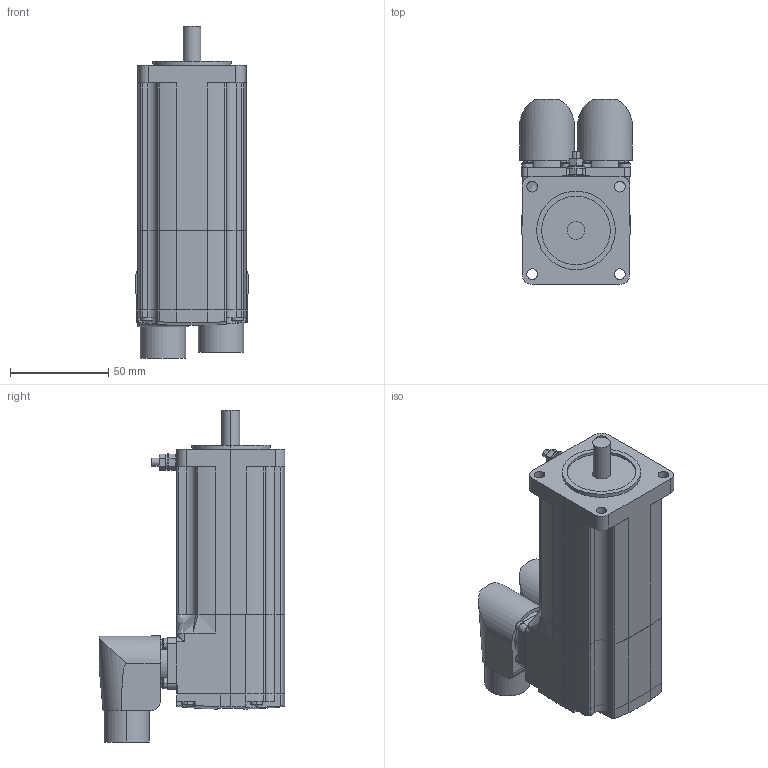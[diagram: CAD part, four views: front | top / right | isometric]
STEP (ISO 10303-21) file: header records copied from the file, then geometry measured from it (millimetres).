
FILE_DESCRIPTION (( 'STEP AP214' ), '1' );
FILE_NAME ('SH30551x0xA2100.STEP', '2013-11-29T07:09:08', ( 'Windows User' ), ( 'Schneider-Electric' ), 'SwSTEP 2.0', 'SolidWorks 2010', '' );
FILE_SCHEMA (( 'AUTOMOTIVE_DESIGN' ));
Length unit declared in the file: millimetre
Products named in the file (7): 1-100011007_K-TOPFGEHÄUSE SH3-055X_000_Topfgehäuse SH30551 ohne Passfeder; 1-100011008_K-LAGERSCHILD SH3-055X-A UND F_000_Lagerschild SH3-055x-A; 1-100011009_K-DECKEL SH3-055X_000_Deckel SH3-055x; 1-100011011_K-ERDUNGSBOLZEN M4_000; K-ENCODER-CONINVERS-ABGEW_ENCODER-CONINVERS-ABGEWINKELT_000_Single- MultiTurn; K-POWER-CONINVERS-ABGEWIN_POWER-CONINVERS-ABGEWINKELT_000_ohne Bremse; SH30551x0xA2100
Assembly tree (6 placements, depth 2):
  SH30551x0xA2100
    K-POWER-CONINVERS-ABGEWIN_POWER-CONINVERS-ABGEWINKELT_000_ohne Bremse
    1-100011008_K-LAGERSCHILD SH3-055X-A UND F_000_Lagerschild SH3-055x-A
    1-100011007_K-TOPFGEHÄUSE SH3-055X_000_Topfgehäuse SH30551 ohne Passfeder
    1-100011011_K-ERDUNGSBOLZEN M4_000
    1-100011009_K-DECKEL SH3-055X_000_Deckel SH3-055x
    K-ENCODER-CONINVERS-ABGEW_ENCODER-CONINVERS-ABGEWINKELT_000_Single- MultiTurn
Bounding box: 57.5 x 94.5 x 168.95 mm (x, y, z)
Volume: 427028.2 mm3; surface area: 62461.9 mm2
Topology: 6 solids, 6 shells, 386 faces, 972 edges, 643 vertices
Faces by surface type: cylinder 183, plane 166, torus 16, bspline 12, cone 5, sphere 4
Entity records: 13330 total; most frequent: CARTESIAN_POINT 3489, DIRECTION 2097, ORIENTED_EDGE 1940, EDGE_CURVE 970, AXIS2_PLACEMENT_3D 821, VERTEX_POINT 643, LINE 455, VECTOR 455
